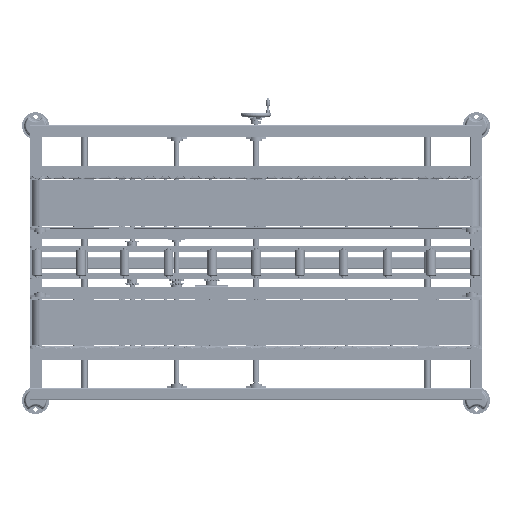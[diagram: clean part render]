
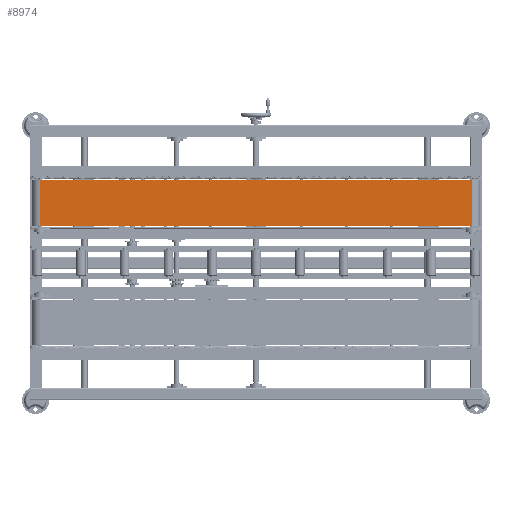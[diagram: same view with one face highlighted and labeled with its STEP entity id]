
A CAD part, top view. The second image highlights one B-rep face of the part: STEP entity #8974.
In plain terms, the highlighted planar face has unit normal (0, 0, 1) as drawn and (0.219, 0.976, 0) by its records, which use the part's own axes.
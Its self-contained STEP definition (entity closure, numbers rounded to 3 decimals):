
#6230=PLANE('',#63432);
#8974=ADVANCED_FACE('',(#12922),#6230,.T.);
#12922=FACE_OUTER_BOUND('',#16048,.T.);
#16048=EDGE_LOOP('',(#34962,#34963,#34964,#34965));
#21860=LINE('',#96196,#24999);
#21875=LINE('',#96239,#25014);
#21876=LINE('',#96245,#25015);
#21877=LINE('',#96246,#25016);
#24999=VECTOR('',#73588,1.);
#25014=VECTOR('',#73633,1.);
#25015=VECTOR('',#73640,1.);
#25016=VECTOR('',#73641,1.);
#34962=ORIENTED_EDGE('',*,*,#52995,.F.);
#34963=ORIENTED_EDGE('',*,*,#53020,.T.);
#34964=ORIENTED_EDGE('',*,*,#53017,.T.);
#34965=ORIENTED_EDGE('',*,*,#53021,.F.);
#46254=VERTEX_POINT('',#96195);
#46255=VERTEX_POINT('',#96197);
#46268=VERTEX_POINT('',#96240);
#46269=VERTEX_POINT('',#96241);
#52995=EDGE_CURVE('',#46254,#46255,#21860,.T.);
#53017=EDGE_CURVE('',#46268,#46269,#21875,.T.);
#53020=EDGE_CURVE('',#46254,#46268,#21876,.T.);
#53021=EDGE_CURVE('',#46255,#46269,#21877,.T.);
#63432=AXIS2_PLACEMENT_3D('',#96247,#73642,#73643);
#73588=DIRECTION('',(0.,0.,1.));
#73633=DIRECTION('',(0.,0.,1.));
#73640=DIRECTION('',(-0.976,0.219,0.));
#73641=DIRECTION('',(-0.976,0.219,0.));
#73642=DIRECTION('',(0.219,0.976,0.));
#73643=DIRECTION('',(0.976,-0.219,0.));
#96195=CARTESIAN_POINT('',(1401.1,-287.313,-150.));
#96196=CARTESIAN_POINT('',(1401.1,-287.313,-1649.739));
#96197=CARTESIAN_POINT('',(1401.1,-287.313,0.));
#96239=CARTESIAN_POINT('',(5.922,26.343,-1649.739));
#96240=CARTESIAN_POINT('',(5.922,26.343,-150.));
#96241=CARTESIAN_POINT('',(5.922,26.343,0.));
#96245=CARTESIAN_POINT('',(5.922,26.343,-150.));
#96246=CARTESIAN_POINT('',(5.922,26.343,0.));
#96247=CARTESIAN_POINT('',(5.922,26.343,-1649.739));
